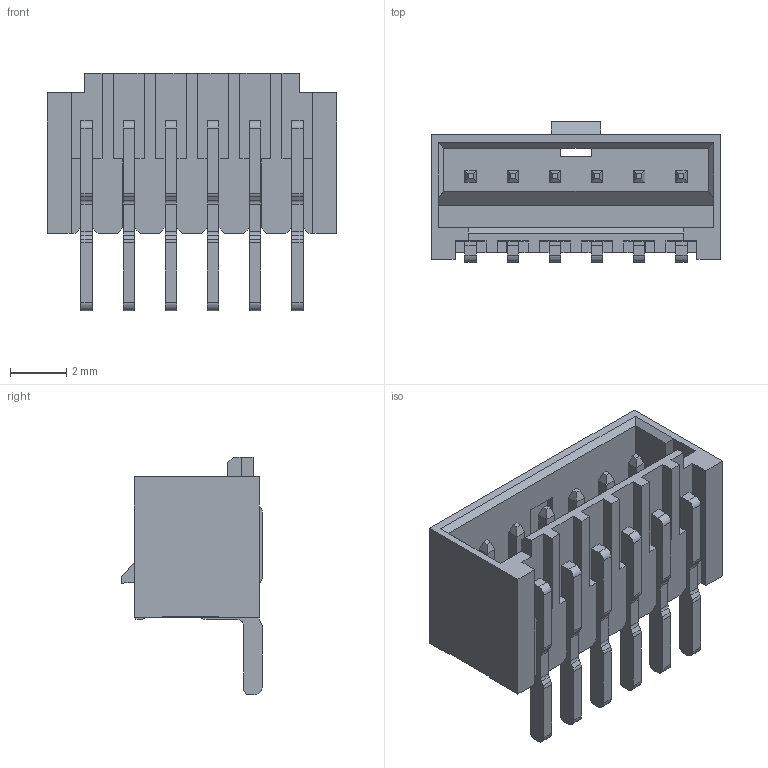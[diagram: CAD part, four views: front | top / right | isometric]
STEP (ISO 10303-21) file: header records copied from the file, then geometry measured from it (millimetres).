
FILE_DESCRIPTION (( 'STEP AP203' ), '1' );
FILE_NAME ('HC-ZHG-6PWT-05（1.50 单排 带扣 卧贴-HCTL）.STEP', '2026-06-22T10:10:05', ( '' ), ( '' ), 'SwSTEP 2.0', 'SolidWorks 2025', '' );
FILE_SCHEMA (( 'CONFIG_CONTROL_DESIGN' ));
Length unit declared in the file: millimetre
Products named in the file (1): HC-ZHG-6PWT-05（1.50 单排 带扣 卧贴-HCTL）
Bounding box: 10.3 x 5 x 8.45 mm (x, y, z)
Volume: 121.4 mm3; surface area: 546.4 mm2
Topology: 1 solids, 1 shells, 393 faces, 1110 edges, 730 vertices
Faces by surface type: plane 321, cylinder 72
Entity records: 12629 total; most frequent: CARTESIAN_POINT 2234, ORIENTED_EDGE 2220, DIRECTION 2042, EDGE_CURVE 1110, VECTOR 966, LINE 966, VERTEX_POINT 730, AXIS2_PLACEMENT_3D 538
